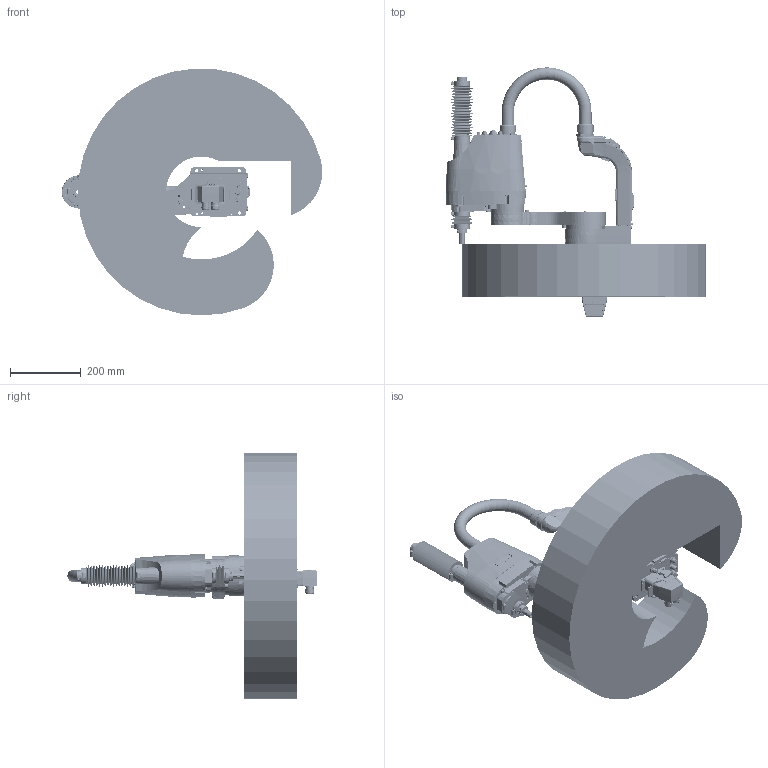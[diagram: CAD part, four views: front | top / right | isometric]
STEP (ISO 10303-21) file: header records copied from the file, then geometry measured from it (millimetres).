
FILE_DESCRIPTION( ( 'STEP AP214' ), '1' );
FILE_NAME( 'C:/Users/9607552/Desktop/GX4-A/GX4-A351CB-R-AW.stp', '2023-04-07T05:00:56', ( '' ), ( '' ), ' ', 'PARTsolutions', ' ' );
FILE_SCHEMA( ( 'AUTOMOTIVE_DESIGN { 1 0 10303 214 1 1 1 1 }' ) );
Length unit declared in the file: millimetre
Products named in the file (10): GX4-A351CB-R-AW; _A251CBbasesb; _A351S-R_J1_ARM; _A251S-a; _A351S_CONDUIT; _A251C; _A251C-long; _A251C-short; _Angle; _GX4-34_WS
Assembly tree (9 placements, depth 2):
  GX4-A351CB-R-AW
    _A251CBbasesb
    _A351S-R_J1_ARM
    _A251S-a
    _A351S_CONDUIT
    _A251C
    _A251C-long
    _A251C-short
    _Angle
    _GX4-34_WS
Bounding box: 737.83 x 706.33 x 699.31 mm (x, y, z)
Volume: 51823130.2 mm3; surface area: 2001800 mm2
Topology: 9 solids, 9 shells, 4231 faces, 10346 edges, 6729 vertices
Faces by surface type: plane 2465, cylinder 1179, cone 400, torus 100, bspline 86, sphere 1
Full cylindrical faces by diameter (mm): 1 x30, 1.13 x55, 1.18 x55, 2.459 x4, 2.5 x17, 3 x36, 3.2 x3, 3.242 x1, 3.3 x46, 3.4 x32, 3.5 x12, 4 x4, 4.5 x24, 4.8 x4, 4.917 x2, 5 x1, 5.34 x8, 5.4 x14, 5.5 x26, 5.6 x2, 5.68 x4, 5.9 x4, 5.999 x8, 6 x9, 6.7 x4, 6.8 x7, 6.98 x4, 7 x37, 7.1 x4, 7.8 x4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
Entity records: 158611 total; most frequent: CARTESIAN_POINT 30096, DIRECTION 18857, ORIENTED_EDGE 18588, EDGE_CURVE 9294, AXIS2_PLACEMENT_3D 7134, VERTEX_POINT 6624, EDGE_LOOP 5810, FACE_OUTER_BOUND 4908
